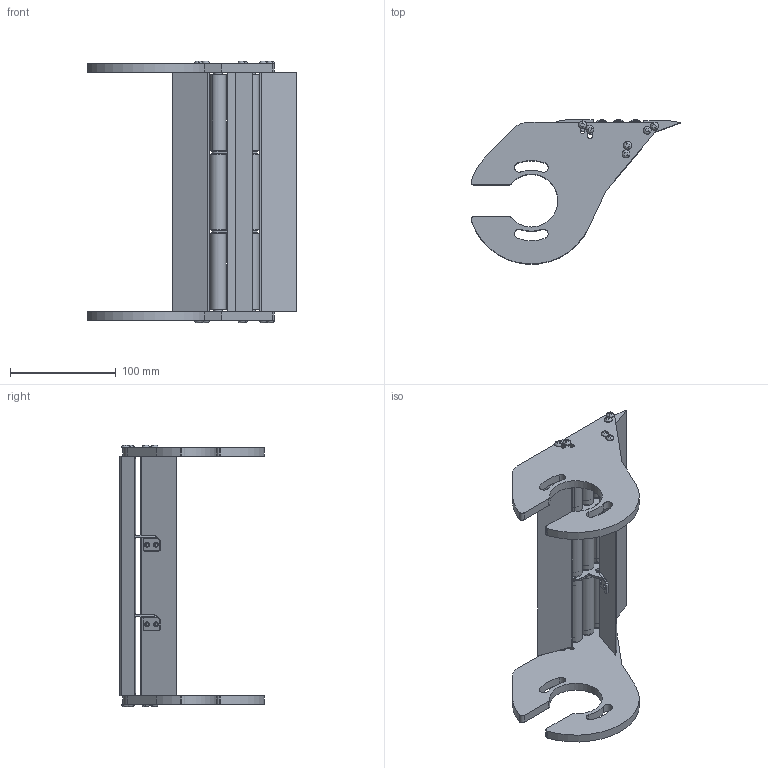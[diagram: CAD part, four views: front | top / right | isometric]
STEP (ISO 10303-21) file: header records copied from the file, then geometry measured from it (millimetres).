
FILE_DESCRIPTION (( 'STEP AP214' ), '1' );
FILE_NAME ('F2 750 TGRI 2R.STEP', '2024-02-26T14:50:56', ( '' ), ( '' ), 'SwSTEP 2.0', 'SolidWorks 2022', '' );
FILE_SCHEMA (( 'AUTOMOTIVE_DESIGN' ));
Length unit declared in the file: millimetre
Products named in the file (15): GR F2 750; AXE TGRI F2 750; Insert M4 TB; PSTI F2 2R; ROULEMENT TGRI CAB-F2-R-HEF; ENTRETOISE SA TGRI; F2 750 TGRI 2R; PT-F2 - F2-750; TBHC 4X16; SA TGRI + ENTRETOISE; PSTI F2 2R Symétrie; SA TGRI; Galet + roulement F2 750; ENTRETOISE TGRI CAB-F2-R-HEF; PT-F2 - F2-750 percé
Assembly tree (48 placements, depth 3):
  F2 750 TGRI 2R
    PSTI F2 2R Symétrie
    PSTI F2 2R
    PT-F2 - F2-750 percé
    PT-F2 - F2-750  x2
    AXE TGRI F2 750  x3
    Galet + roulement F2 750  x9
      GR F2 750
      ROULEMENT TGRI CAB-F2-R-HEF
    ENTRETOISE TGRI CAB-F2-R-HEF  x6
    SA TGRI + ENTRETOISE  x2
      SA TGRI
      ENTRETOISE SA TGRI
    TBHC 4X16  x12
    Insert M4 TB  x4
Bounding box: 198.67 x 136.6 x 247.78 mm (x, y, z)
Volume: 475918.5 mm3; surface area: 208111.4 mm2
Topology: 65 solids, 65 shells, 2851 faces, 6173 edges, 3524 vertices
Faces by surface type: cone 1520, cylinder 644, plane 397, torus 254, sphere 26, bspline 10
Entity records: 18228 total; most frequent: CARTESIAN_POINT 3352, DIRECTION 3215, ORIENTED_EDGE 2660, EDGE_CURVE 1330, AXIS2_PLACEMENT_3D 1305, VERTEX_POINT 803, CIRCLE 687, EDGE_LOOP 631
